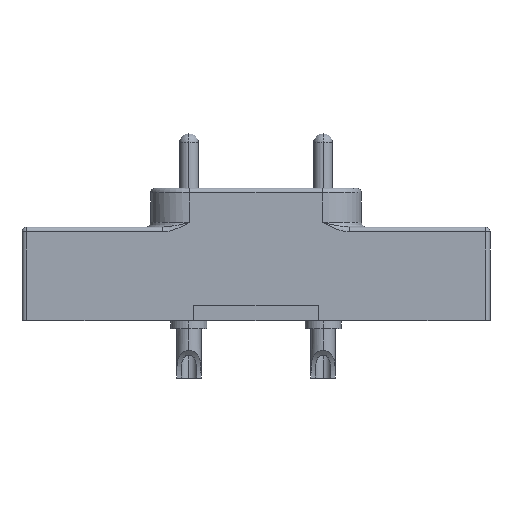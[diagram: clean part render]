
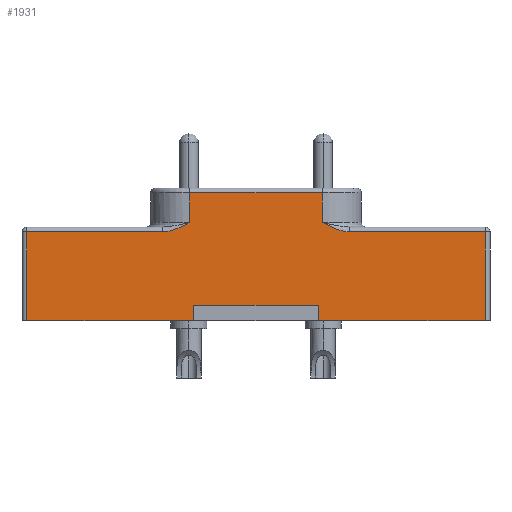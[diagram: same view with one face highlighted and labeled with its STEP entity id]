
A CAD part, front view. The second image highlights one B-rep face of the part: STEP entity #1931.
In plain terms, the highlighted planar face has unit normal (0, -1, 0).
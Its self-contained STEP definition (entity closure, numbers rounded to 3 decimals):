
#6=DIRECTION('',(1.,0.,0.));
#7=VECTOR('',#6,10.7);
#8=CARTESIAN_POINT('',(-14.7,-2.5,0.));
#9=LINE('',#8,#7);
#10=DIRECTION('',(1.,0.,0.));
#11=VECTOR('',#10,10.7);
#12=CARTESIAN_POINT('',(4.,-2.5,0.));
#13=LINE('',#12,#11);
#119=DIRECTION('',(0.,0.,-1.));
#120=VECTOR('',#119,5.7);
#121=CARTESIAN_POINT('',(-14.7,-2.5,5.7));
#122=LINE('',#121,#120);
#246=DIRECTION('',(0.,0.,1.));
#247=VECTOR('',#246,5.7);
#248=CARTESIAN_POINT('',(14.7,-2.5,0.));
#249=LINE('',#248,#247);
#254=DIRECTION('',(0.,0.,1.));
#255=VECTOR('',#254,1.);
#256=CARTESIAN_POINT('',(4.,-2.5,0.));
#257=LINE('',#256,#255);
#258=CARTESIAN_POINT('',(-5.982,-2.5,5.7));
#259=CARTESIAN_POINT('',(-5.86,-2.5,5.701));
#260=CARTESIAN_POINT('',(-5.604,-2.5,5.728));
#261=CARTESIAN_POINT('',(-5.182,-2.5,5.852));
#262=CARTESIAN_POINT('',(-4.736,-2.5,6.048));
#263=CARTESIAN_POINT('',(-4.415,-2.5,6.21));
#264=CARTESIAN_POINT('',(-4.25,-2.5,6.3));
#266=DIRECTION('',(0.,0.,1.));
#267=VECTOR('',#266,1.9);
#268=CARTESIAN_POINT('',(-4.25,-2.5,6.3));
#269=LINE('',#268,#267);
#270=DIRECTION('',(0.,0.,-1.));
#271=VECTOR('',#270,1.9);
#272=CARTESIAN_POINT('',(4.25,-2.5,8.2));
#273=LINE('',#272,#271);
#274=CARTESIAN_POINT('',(4.25,-2.5,6.3));
#275=CARTESIAN_POINT('',(4.361,-2.5,6.242));
#276=CARTESIAN_POINT('',(4.572,-2.5,6.132));
#277=CARTESIAN_POINT('',(4.863,-2.5,5.991));
#278=CARTESIAN_POINT('',(5.132,-2.5,5.878));
#279=CARTESIAN_POINT('',(5.378,-2.5,5.794));
#280=CARTESIAN_POINT('',(5.602,-2.5,5.737));
#281=CARTESIAN_POINT('',(5.804,-2.5,5.706));
#282=CARTESIAN_POINT('',(5.925,-2.5,5.7));
#283=CARTESIAN_POINT('',(5.982,-2.5,5.7));
#297=DIRECTION('',(1.,0.,0.));
#298=VECTOR('',#297,8.);
#299=CARTESIAN_POINT('',(-4.,-2.5,1.));
#300=LINE('',#299,#298);
#313=DIRECTION('',(0.,0.,1.));
#314=VECTOR('',#313,1.);
#315=CARTESIAN_POINT('',(-4.,-2.5,0.));
#316=LINE('',#315,#314);
#329=DIRECTION('',(-1.,0.,0.));
#330=VECTOR('',#329,8.718);
#331=CARTESIAN_POINT('',(-5.982,-2.5,5.7));
#332=LINE('',#331,#330);
#477=DIRECTION('',(-1.,0.,0.));
#478=VECTOR('',#477,8.5);
#479=CARTESIAN_POINT('',(4.25,-2.5,8.2));
#480=LINE('',#479,#478);
#778=DIRECTION('',(-1.,0.,0.));
#779=VECTOR('',#778,8.718);
#780=CARTESIAN_POINT('',(14.7,-2.5,5.7));
#781=LINE('',#780,#779);
#1277=CARTESIAN_POINT('',(-14.7,-2.5,0.));
#1279=VERTEX_POINT('',#1277);
#1280=CARTESIAN_POINT('',(-4.,-2.5,0.));
#1281=VERTEX_POINT('',#1280);
#1286=CARTESIAN_POINT('',(4.,-2.5,0.));
#1287=VERTEX_POINT('',#1286);
#1288=CARTESIAN_POINT('',(14.7,-2.5,0.));
#1289=VERTEX_POINT('',#1288);
#1346=CARTESIAN_POINT('',(-14.7,-2.5,5.7));
#1347=VERTEX_POINT('',#1346);
#1384=CARTESIAN_POINT('',(14.7,-2.5,5.7));
#1385=VERTEX_POINT('',#1384);
#1386=CARTESIAN_POINT('',(4.,-2.5,1.));
#1387=VERTEX_POINT('',#1386);
#1388=CARTESIAN_POINT('',(-4.,-2.5,1.));
#1389=VERTEX_POINT('',#1388);
#1390=CARTESIAN_POINT('',(-5.982,-2.5,5.7));
#1391=VERTEX_POINT('',#1390);
#1392=VERTEX_POINT('',#264);
#1393=CARTESIAN_POINT('',(-4.25,-2.5,8.2));
#1394=VERTEX_POINT('',#1393);
#1395=CARTESIAN_POINT('',(4.25,-2.5,8.2));
#1396=VERTEX_POINT('',#1395);
#1397=CARTESIAN_POINT('',(4.25,-2.5,6.3));
#1398=VERTEX_POINT('',#1397);
#1399=VERTEX_POINT('',#283);
#1900=CARTESIAN_POINT('',(-15.,-2.5,2.));
#1901=DIRECTION('',(0.,-1.,0.));
#1902=DIRECTION('',(-1.,0.,0.));
#1903=AXIS2_PLACEMENT_3D('',#1900,#1901,#1902);
#1904=PLANE('',#1903);
#1906=ORIENTED_EDGE('',*,*,#1905,.T.);
#1908=ORIENTED_EDGE('',*,*,#1907,.F.);
#1910=ORIENTED_EDGE('',*,*,#1909,.F.);
#1911=ORIENTED_EDGE('',*,*,#1586,.F.);
#1912=ORIENTED_EDGE('',*,*,#1678,.F.);
#1914=ORIENTED_EDGE('',*,*,#1913,.F.);
#1916=ORIENTED_EDGE('',*,*,#1915,.T.);
#1918=ORIENTED_EDGE('',*,*,#1917,.T.);
#1920=ORIENTED_EDGE('',*,*,#1919,.F.);
#1922=ORIENTED_EDGE('',*,*,#1921,.T.);
#1924=ORIENTED_EDGE('',*,*,#1923,.T.);
#1926=ORIENTED_EDGE('',*,*,#1925,.F.);
#1927=ORIENTED_EDGE('',*,*,#1891,.F.);
#1928=ORIENTED_EDGE('',*,*,#1594,.F.);
#1929=EDGE_LOOP('',(#1906,#1908,#1910,#1911,#1912,#1914,#1916,#1918,#1920,#1922,
#1924,#1926,#1927,#1928));
#1930=FACE_OUTER_BOUND('',#1929,.F.);
#1931=ADVANCED_FACE('',(#1930),#1904,.T.);
#265=B_SPLINE_CURVE_WITH_KNOTS('',3,(#258,#259,#260,#261,#262,#263,#264),
.UNSPECIFIED.,.F.,.F.,(4,1,1,1,4),(0.,0.25,0.5,0.75,1.),
.UNSPECIFIED.);
#284=B_SPLINE_CURVE_WITH_KNOTS('',3,(#274,#275,#276,#277,#278,#279,#280,#281,
#282,#283),.UNSPECIFIED.,.F.,.F.,(4,1,1,1,1,1,1,4),(0.,0.143,
0.286,0.429,0.571,0.714,
0.857,1.),.UNSPECIFIED.);
#1586=EDGE_CURVE('',#1279,#1281,#9,.T.);
#1594=EDGE_CURVE('',#1287,#1289,#13,.T.);
#1678=EDGE_CURVE('',#1347,#1279,#122,.T.);
#1891=EDGE_CURVE('',#1289,#1385,#249,.T.);
#1905=EDGE_CURVE('',#1287,#1387,#257,.T.);
#1907=EDGE_CURVE('',#1389,#1387,#300,.T.);
#1909=EDGE_CURVE('',#1281,#1389,#316,.T.);
#1913=EDGE_CURVE('',#1391,#1347,#332,.T.);
#1915=EDGE_CURVE('',#1391,#1392,#265,.T.);
#1917=EDGE_CURVE('',#1392,#1394,#269,.T.);
#1919=EDGE_CURVE('',#1396,#1394,#480,.T.);
#1921=EDGE_CURVE('',#1396,#1398,#273,.T.);
#1923=EDGE_CURVE('',#1398,#1399,#284,.T.);
#1925=EDGE_CURVE('',#1385,#1399,#781,.T.);
